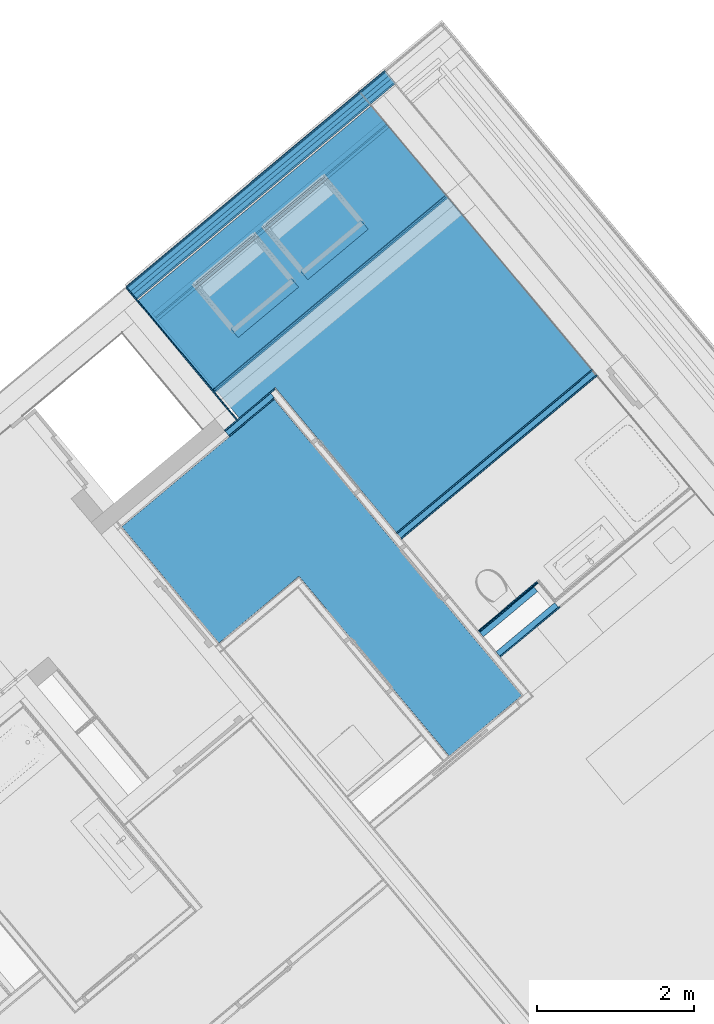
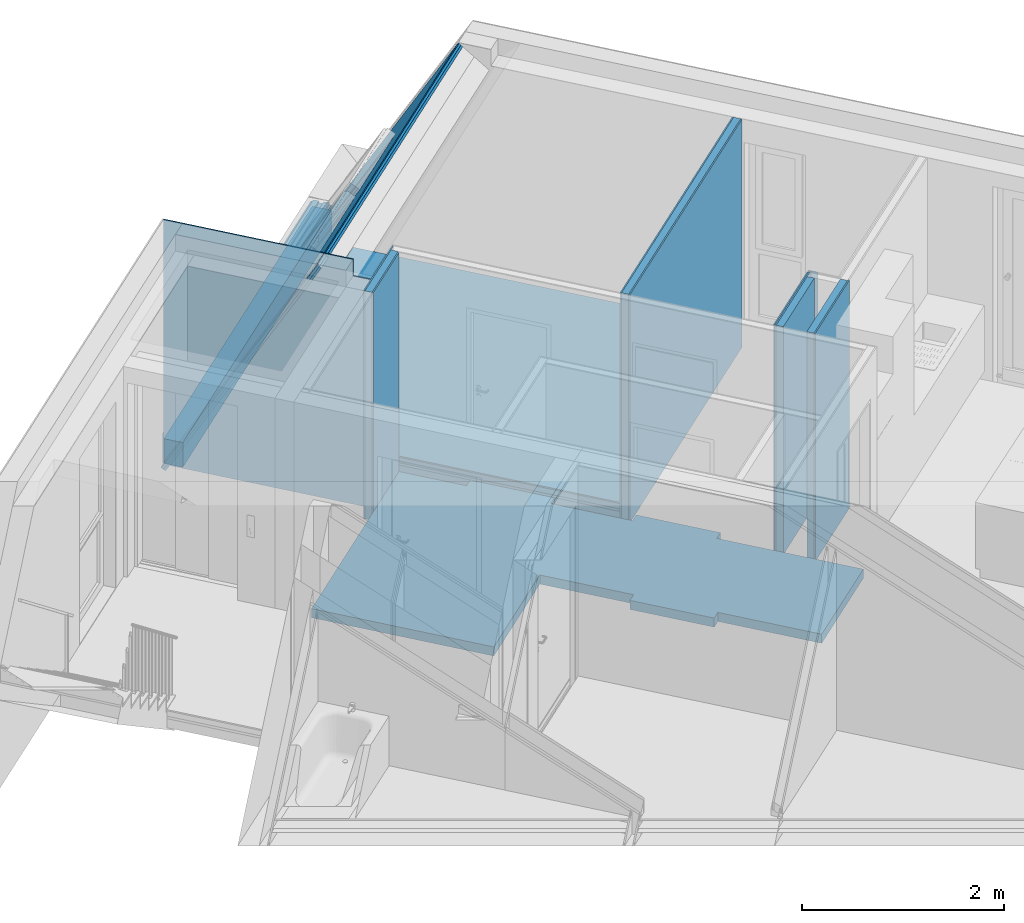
# One storey, part 35 of 58: 25 building element parts, 2 openings, 9 elements without a shape of their own.
"""IFC4 building model written with IfcOpenShell, lengths in metres."""

from ifc_helpers import new_model, entity, si_unit, converted_unit, derived_unit, direction, frame, origin_with_axes, place, context, subcontext, project, spatial, polygons, material, type_object, element, aggregate, save


model = new_model("IFC4")

# Units and contexts
model_context = context("Model", 3, precision=1e-05, world=origin_with_axes(), true_north=direction((0.0, 1.0)))
body_context = subcontext(model_context, "Body", "Model", "MODEL_VIEW")
ifc_project = project(units=[si_unit("LENGTHUNIT", "METRE"), si_unit("AREAUNIT", "SQUARE_METRE"), si_unit("VOLUMEUNIT", "CUBIC_METRE"), converted_unit("PLANEANGLEUNIT", "DEGREE", entity("IfcPlaneAngleMeasure", 0.0174532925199), si_unit("PLANEANGLEUNIT", "RADIAN"), dimensions=[0, 0, 0, 0, 0, 0, 0]), converted_unit("TIMEUNIT", "Year", entity("IfcTimeMeasure", 31556926.0), si_unit("TIMEUNIT", "SECOND"), dimensions=[0, 0, 1, 0, 0, 0, 0]), si_unit("MASSUNIT", "GRAM", prefix="KILO"), si_unit("THERMODYNAMICTEMPERATUREUNIT", "DEGREE_CELSIUS"), si_unit("LUMINOUSINTENSITYUNIT", "LUMEN"), si_unit("ENERGYUNIT", "JOULE", prefix="MEGA"), derived_unit("THERMALCONDUCTANCEUNIT", [(si_unit("POWERUNIT", "WATT"), 1), (si_unit("LENGTHUNIT", "METRE"), -1), (si_unit("THERMODYNAMICTEMPERATUREUNIT", "KELVIN"), -1)]), derived_unit("SPECIFICHEATCAPACITYUNIT", [(si_unit("ENERGYUNIT", "JOULE"), 1), (si_unit("MASSUNIT", "GRAM", prefix="KILO"), -1), (si_unit("THERMODYNAMICTEMPERATUREUNIT", "KELVIN"), -1)]), derived_unit("MASSDENSITYUNIT", [(si_unit("MASSUNIT", "GRAM", prefix="KILO"), 1), (si_unit("VOLUMEUNIT", "CUBIC_METRE"), -1)])], contexts=[model_context])

# Site, building, storey
site_placement = place(None, frame((-0.00153261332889, -0.00661245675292, 0.0), z_axis=(0.0, 0.0, 1.0), x_axis=(1.0, 0.0, 0.0)))
site = spatial("IfcSite", under=ifc_project, at=site_placement, Name="Site", CompositionType="ELEMENT")
building_placement = place(site_placement, origin_with_axes())
building = spatial("IfcBuilding", under=site, at=building_placement, Name="Building", CompositionType="ELEMENT")
storey_placement = place(building_placement, frame((0.0, 0.0, 5.7), z_axis=(0.0, 0.0, 1.0), x_axis=(1.0, 0.0, 0.0)))
storey = spatial("IfcBuildingStorey", under=building, at=storey_placement, Name="DG1", CompositionType="ELEMENT", Elevation=5.7)

# Roof, openings, building element parts
roof_type = type_object("IfcRoofType", Name="Schrägdach Dachaufbau 210", PredefinedType="NOTDEFINED")
roof_placement = place(storey_placement, frame((1.45179508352, 27.7541030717, -0.775000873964), z_axis=(0.0, 0.0, 1.0), x_axis=(0.767365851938, 0.641209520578, 0.0)))
roof = element("IfcRoof", 1, at=roof_placement, inside=storey, type_object=roof_type, Name="Dach-001", PredefinedType="NOTDEFINED")
opening_1_placement = place(roof_placement, frame((1.26831312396, -0.816378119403, 1.05900750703), z_axis=(0.0, 0.0, 1.0), x_axis=(1.0, 0.0, 0.0)))
element("IfcOpeningElement", 2, at=opening_1_placement, cuts=roof, Name="DFenst-002", context=body_context, identifier="Reference", shape_type="Tessellation", body=[
    polygons([(-0.5, -0.8, 2.16064152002), (0.5, -0.8, 2.16064152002), (0.5, -0.799133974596, 2.16114152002), (-0.5, -0.799133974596, 2.16114152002), (-0.5, -1.0436418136, 2.16064152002), (0.5, -1.0436418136, 2.16064152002), (0.5, 0.0, 0.775000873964), (0.5, 0.000866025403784, 0.775500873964), (-0.5, 0.000866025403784, 0.775500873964), (-0.5, 0.0, 0.775000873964), (-0.5, 0.0, 0.353000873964), (0.5, 0.0, 0.353000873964)], [[[1, 2, 3, 4]], [[2, 1, 5, 6]], [[2, 7, 8, 3]], [[3, 8, 9, 4]], [[10, 1, 4, 9]], [[1, 10, 11, 5]], [[5, 11, 12, 6]], [[7, 2, 6, 12]], [[7, 10, 9, 8]], [[10, 7, 12, 11]]], closed=True),
])
opening_2_placement = place(roof_placement, frame((2.41829637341, -0.818619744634, 1.06289011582), z_axis=(0.0, 0.0, 1.0), x_axis=(1.0, 0.0, 0.0)))
element("IfcOpeningElement", 3, at=opening_2_placement, cuts=roof, Name="DFenst-002", context=body_context, identifier="Reference", shape_type="Tessellation", body=[
    polygons([(-0.5, -0.8, 2.16064152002), (0.5, -0.8, 2.16064152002), (0.5, -0.799133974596, 2.16114152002), (-0.5, -0.799133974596, 2.16114152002), (-0.5, -1.0436418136, 2.16064152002), (0.5, -1.0436418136, 2.16064152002), (0.5, 0.0, 0.775000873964), (0.5, 0.000866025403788, 0.775500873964), (-0.5, 0.000866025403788, 0.775500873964), (-0.5, 0.0, 0.775000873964), (-0.5, 0.0, 0.353000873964), (0.5, 0.0, 0.353000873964)], [[[1, 2, 3, 4]], [[2, 1, 5, 6]], [[2, 7, 8, 3]], [[3, 8, 9, 4]], [[10, 1, 4, 9]], [[1, 10, 11, 5]], [[5, 11, 12, 6]], [[7, 2, 6, 12]], [[7, 10, 9, 8]], [[10, 7, 12, 11]]], closed=True),
])
ifc_material_1 = material(Name="Stehfalz")
building_element_part_1_placement = place(roof_placement, origin_with_axes())
building_element_part_1 = element("IfcBuildingElementPart", 4, at=building_element_part_1_placement, material=ifc_material_1, Name="Stehfalz", PredefinedType="NOTDEFINED", context=body_context, shape_type="Tessellation", body=[
    polygons([(0.0935620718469, -0.439195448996, 1.16070883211), (0.0935620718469, -0.440292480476, 1.16260894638), (3.95379712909, -0.440292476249, 1.16260893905), (3.95855441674, -1.92194630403, 3.728908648), (-0.121577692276, -1.92249479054, 3.72985865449), (-0.121798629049, -0.273065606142, 0.872963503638), (0.0935620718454, -0.273065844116, 0.87296391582), (0.0935620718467, -0.419959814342, 1.12739173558), (3.95373184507, -0.41995981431, 1.12739173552), (3.95379360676, -0.439195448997, 1.16070883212), (0.768313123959, -0.816378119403, 1.81400838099), (0.768313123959, -1.62792512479, 3.21964902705), (1.76831312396, -1.62792512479, 3.21964902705), (1.76831312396, -0.816378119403, 1.81400838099), (2.91829637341, -0.818619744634, 1.81789098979), (1.91829637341, -0.818619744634, 1.81789098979), (1.91829637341, -1.63016675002, 3.22353163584), (2.91829637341, -1.63016675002, 3.22353163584), (0.0935620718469, -0.439716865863, 1.181130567), (0.0935620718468, -0.427437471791, 1.1603434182), (0.0935620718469, -0.439703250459, 1.18158837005), (3.95382241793, -0.43971686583, 1.181130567), (3.9538230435, -0.439703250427, 1.18158836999), (3.95855653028, -1.91394431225, 3.73504879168), (-0.121577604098, -1.91449279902, 3.73599879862), (-0.121798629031, -0.264405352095, 0.877963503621), (0.0935620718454, -0.264405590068, 0.877963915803), (0.0935620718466, -0.412805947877, 1.13500087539), (0.0935620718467, -0.419959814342, 1.13500087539), (3.95374242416, -0.41995981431, 1.13500087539), (3.95378366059, -0.427437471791, 1.1603434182), (3.95373668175, -0.412805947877, 1.13500087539), (0.768313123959, -0.816378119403, 1.83400838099), (0.768313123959, -1.6163781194, 3.21964902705), (1.76831312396, -1.6163781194, 3.21964902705), (1.76831312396, -0.816378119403, 1.83400838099), (2.91829637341, -0.818619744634, 1.83789098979), (1.91829637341, -0.818619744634, 1.83789098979), (1.91829637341, -1.61861974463, 3.22353163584), (2.91829637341, -1.61861974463, 3.22353163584)], [[[1, 2, 3, 4, 5, 6, 7, 8, 9, 10], [11, 12, 13, 14], [15, 16, 17, 18]], [[19, 2, 1, 20, 21]], [[22, 3, 2, 19]], [[3, 22, 23, 24, 4]], [[5, 4, 24, 25]], [[6, 5, 25, 26]], [[27, 7, 6, 26]], [[28, 29, 8, 7, 27]], [[30, 9, 8, 29]], [[31, 10, 9, 30, 32]], [[1, 10, 31, 20]], [[12, 11, 33, 34]], [[13, 12, 34, 35]], [[14, 13, 35, 36]], [[36, 33, 11, 14]], [[15, 37, 38, 16]], [[39, 17, 16, 38]], [[40, 18, 17, 39]], [[37, 15, 18, 40]], [[20, 31, 32, 28, 27, 26, 25, 24, 23, 21], [33, 36, 35, 34], [39, 38, 37, 40]], [[22, 19, 21, 23]], [[32, 30, 29, 28]]], closed=True),
])
ifc_material_2 = material(Name="Bauholz")
building_element_part_2_placement = place(roof_placement, origin_with_axes())
building_element_part_2 = element("IfcBuildingElementPart", 5, at=building_element_part_2_placement, material=ifc_material_2, Name="Bauholz", PredefinedType="NOTDEFINED", context=body_context, shape_type="Tessellation", body=[
    polygons([(3.95379458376, -0.440350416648, 1.16074472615), (3.95379712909, -0.440292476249, 1.16260893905), (3.95855441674, -1.92194630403, 3.728908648), (3.95854913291, -1.94195128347, 3.71355828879), (3.95366232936, -0.41995981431, 1.07739173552), (3.95373184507, -0.41995981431, 1.12739173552), (3.95379360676, -0.439195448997, 1.16070883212), (0.0935620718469, -0.440350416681, 1.16074472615), (0.0935620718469, -0.440292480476, 1.16260894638), (0.0935620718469, -0.439195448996, 1.16070883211), (0.0935620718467, -0.419959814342, 1.12739173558), (0.0935620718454, -0.273065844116, 0.87296391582), (-0.121798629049, -0.273065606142, 0.872963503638), (-0.121577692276, -1.92249479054, 3.72985865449), (0.768313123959, -0.816378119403, 1.81400838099), (1.76831312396, -0.816378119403, 1.81400838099), (1.76831312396, -1.62792512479, 3.21964902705), (0.768313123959, -1.62792512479, 3.21964902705), (1.91829637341, -1.63016675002, 3.22353163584), (1.91829637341, -0.818619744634, 1.81789098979), (2.91829637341, -0.818619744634, 1.81789098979), (2.91829637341, -1.63016675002, 3.22353163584), (-0.121577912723, -1.94249976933, 3.71450829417), (0.0935620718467, -0.419959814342, 1.07739173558), (-0.121798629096, -0.294716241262, 0.860463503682), (0.0935620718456, -0.294716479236, 0.860463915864), (0.768313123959, -0.816378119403, 1.76400838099), (0.768313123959, -1.65679263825, 3.21964902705), (1.76831312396, -1.65679263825, 3.21964902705), (1.76831312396, -0.816378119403, 1.76400838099), (2.91829637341, -0.818619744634, 1.76789098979), (1.91829637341, -0.818619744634, 1.76789098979), (1.91829637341, -1.65903426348, 3.22353163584), (2.91829637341, -1.65903426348, 3.22353163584)], [[[1, 2, 3, 4, 5, 6, 7]], [[2, 1, 8, 9]], [[10, 7, 6, 11, 12, 13, 14, 3, 2, 9], [15, 16, 17, 18], [19, 20, 21, 22]], [[23, 4, 3, 14]], [[24, 5, 4, 23, 25, 26], [27, 28, 29, 30], [31, 32, 33, 34]], [[11, 6, 5, 24]], [[1, 7, 10, 8]], [[10, 9, 8]], [[11, 24, 26, 12]], [[12, 26, 25, 13]], [[25, 23, 14, 13]], [[16, 15, 27, 30]], [[30, 29, 17, 16]], [[29, 28, 18, 17]], [[28, 27, 15, 18]], [[19, 33, 32, 20]], [[31, 21, 20, 32]], [[21, 31, 34, 22]], [[22, 34, 33, 19]]], closed=True),
])
ifc_material_3 = material(Name="Luftschicht horizontal")
building_element_part_3_placement = place(roof_placement, origin_with_axes())
building_element_part_3 = element("IfcBuildingElementPart", 6, at=building_element_part_3_placement, material=ifc_material_3, Name="Luftschicht horizontal", PredefinedType="NOTDEFINED", context=body_context, shape_type="Tessellation", body=[
    polygons([(3.95366232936, -0.41995981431, 1.07739173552), (3.95854913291, -1.94195128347, 3.71355828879), (3.95854384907, -1.96195626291, 3.69820792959), (3.95359281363, -0.419959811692, 1.02739173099), (0.0935620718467, -0.419959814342, 1.07739173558), (0.0935620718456, -0.294716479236, 0.860463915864), (-0.121798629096, -0.294716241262, 0.860463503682), (-0.121577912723, -1.94249976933, 3.71450829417), (0.768313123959, -0.816378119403, 1.76400838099), (1.76831312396, -0.816378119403, 1.76400838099), (1.76831312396, -1.65679263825, 3.21964902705), (0.768313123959, -1.65679263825, 3.21964902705), (1.91829637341, -1.65903426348, 3.22353163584), (1.91829637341, -0.818619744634, 1.76789098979), (2.91829637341, -0.818619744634, 1.76789098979), (2.91829637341, -1.65903426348, 3.22353163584), (-0.121578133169, -1.96250474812, 3.69915793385), (0.0935620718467, -0.419959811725, 1.02739173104), (-0.121798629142, -0.316366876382, 0.847963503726), (0.0935620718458, -0.316367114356, 0.847963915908), (0.768313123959, -0.816378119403, 1.71400838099), (0.768313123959, -1.68566015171, 3.21964902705), (1.76831312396, -1.68566015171, 3.21964902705), (1.76831312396, -0.816378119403, 1.71400838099), (2.91829637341, -0.818619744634, 1.71789098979), (1.91829637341, -0.818619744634, 1.71789098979), (1.91829637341, -1.68790177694, 3.22353163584), (2.91829637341, -1.68790177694, 3.22353163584)], [[[1, 2, 3, 4]], [[5, 6, 7, 8, 2, 1], [9, 10, 11, 12], [13, 14, 15, 16]], [[17, 3, 2, 8]], [[18, 4, 3, 17, 19, 20], [21, 22, 23, 24], [25, 26, 27, 28]], [[5, 1, 4, 18]], [[5, 18, 20, 6]], [[6, 20, 19, 7]], [[19, 17, 8, 7]], [[10, 9, 21, 24]], [[24, 23, 11, 10]], [[23, 22, 12, 11]], [[22, 21, 9, 12]], [[13, 27, 26, 14]], [[25, 15, 14, 26]], [[15, 25, 28, 16]], [[16, 28, 27, 13]]], closed=True),
])
aggregate(roof, [building_element_part_1, building_element_part_2, building_element_part_3])

# Wall, building element parts
wall_type_1 = type_object("IfcWallType", Name="IW LB 01 Leichtbautrennwand einfach 10,5 cm 105", PredefinedType="NOTDEFINED")
wall_1_placement = place(storey_placement, frame((2.9014331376, 25.8298809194, 0.0), z_axis=(0.0, 0.0, 1.0), x_axis=(0.767354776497, 0.641222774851, 0.0)))
wall_1 = element("IfcWall", 7, at=wall_1_placement, inside=storey, type_object=wall_type_1, Name="Wand-012", PredefinedType="NOTDEFINED")
ifc_material_4 = material(Name="Gipskarton")
building_element_part_4_placement = place(wall_1_placement, origin_with_axes())
building_element_part_4 = element("IfcBuildingElementPart", 8, at=building_element_part_4_placement, material=ifc_material_4, Name="Gipskarton", PredefinedType="NOTDEFINED", context=body_context, shape_type="Tessellation", body=[
    polygons([(0.82844383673, 0.0, 2.76), (0.0, 0.0, 2.76), (0.0, -0.015, 2.76), (0.828443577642, -0.015, 2.76), (0.82844383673, 0.0, 0.0), (0.0, 0.0, 0.0), (0.0, -0.015, 0.0), (0.828443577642, -0.015, 0.0)], [[[1, 2, 3, 4]], [[5, 6, 2, 1]], [[3, 2, 6, 7]], [[4, 3, 7, 8]], [[4, 8, 5, 1]], [[8, 7, 6, 5]]], closed=True),
])
ifc_material_5 = material(Name="Mineralwolle weich")
building_element_part_5_placement = place(wall_1_placement, origin_with_axes())
building_element_part_5 = element("IfcBuildingElementPart", 9, at=building_element_part_5_placement, material=ifc_material_5, Name="Mineralwolle weich", PredefinedType="NOTDEFINED", context=body_context, shape_type="Tessellation", body=[
    polygons([(0.753443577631, -0.015, 2.76), (0.0, -0.015, 2.76), (0.0, -0.09, 2.76), (0.753442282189, -0.09, 2.76), (0.753443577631, -0.015, 0.0), (0.0, -0.015, 0.0), (0.0, -0.09, 0.0), (0.753442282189, -0.09, 0.0)], [[[1, 2, 3, 4]], [[5, 6, 2, 1]], [[3, 2, 6, 7]], [[4, 3, 7, 8]], [[4, 8, 5, 1]], [[8, 7, 6, 5]]], closed=True),
])
building_element_part_6_placement = place(wall_1_placement, origin_with_axes())
building_element_part_6 = element("IfcBuildingElementPart", 10, at=building_element_part_6_placement, material=ifc_material_4, Name="Gipskarton", PredefinedType="NOTDEFINED", context=body_context, shape_type="Tessellation", body=[
    polygons([(0.738442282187, -0.09, 2.76), (0.0, -0.09, 2.76), (0.0, -0.105, 2.76), (0.738442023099, -0.105, 2.76), (0.738442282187, -0.09, 0.0), (0.0, -0.09, 0.0), (0.0, -0.105, 0.0), (0.738442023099, -0.105, 0.0)], [[[1, 2, 3, 4]], [[5, 6, 2, 1]], [[3, 2, 6, 7]], [[4, 3, 7, 8]], [[4, 8, 5, 1]], [[8, 7, 6, 5]]], closed=True),
])
aggregate(wall_1, [building_element_part_4, building_element_part_5, building_element_part_6])

# Wall, building element part
wall_type_2 = type_object("IfcWallType", Name="AW EG 420", PredefinedType="NOTDEFINED")
wall_2_placement = place(storey_placement, frame((2.62547037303, 25.8404084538, 0.0), z_axis=(0.0, 0.0, 1.0), x_axis=(-0.641209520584, 0.767365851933, 0.0)))
wall_2 = element("IfcWall", 11, at=wall_2_placement, inside=storey, type_object=wall_type_2, Name="Wand-003", PredefinedType="NOTDEFINED")
ifc_material_6 = material(Name="Zementputz")
building_element_part_7_placement = place(wall_2_placement, origin_with_axes())
building_element_part_7 = element("IfcBuildingElementPart", 12, at=building_element_part_7_placement, material=ifc_material_6, Name="Zementputz", PredefinedType="NOTDEFINED", context=body_context, shape_type="Tessellation", body=[
    polygons([(2.0011158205, -0.42, 2.95999999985), (0.0, -0.42, 2.95999999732), (0.0, -0.42, 2.76), (-0.19999274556, -0.42, 2.76), (-0.19999274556, -0.42, 0.0), (2.0011158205, -0.42, 0.0), (2.0011158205, -0.404999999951, 2.95999999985), (0.0, -0.404999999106, 2.95999999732), (0.0, -0.404999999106, 2.76), (-0.199993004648, -0.404999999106, 2.76), (-0.199993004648, -0.405, 0.0), (2.0011158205, -0.405, 0.0)], [[[1, 2, 3, 4, 5, 6]], [[7, 8, 2, 1]], [[9, 3, 2, 8]], [[9, 10, 4, 3]], [[5, 4, 10, 11]], [[6, 5, 11, 12]], [[1, 6, 12, 7]], [[10, 9, 8, 7, 12, 11]]], closed=True),
])
aggregate(wall_2, [building_element_part_7])

# Wall, building element parts
wall_3_placement = place(storey_placement, frame((5.08746071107, 24.5291530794, 0.0), z_axis=(0.0, 0.0, 1.0), x_axis=(0.767365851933, 0.641209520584, 0.0)))
wall_3 = element("IfcWall", 13, at=wall_3_placement, inside=storey, type_object=wall_type_1, Name="Wand-012", PredefinedType="NOTDEFINED")
building_element_part_8_placement = place(wall_3_placement, origin_with_axes())
building_element_part_8 = element("IfcBuildingElementPart", 14, at=building_element_part_8_placement, material=ifc_material_4, Name="Gipskarton", PredefinedType="NOTDEFINED", context=body_context, shape_type="Tessellation", body=[
    polygons([(3.23167648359, -0.015, 2.76), (3.23167648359, 0.0, 2.76), (0.0, 0.0, 2.76), (0.0, -0.015, 2.76), (3.23167648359, -0.015, 0.0), (3.23167648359, 0.0, 0.0), (0.0, 0.0, 0.0), (0.0, -0.015, 0.0)], [[[1, 2, 3, 4]], [[2, 1, 5, 6]], [[2, 6, 7, 3]], [[8, 4, 3, 7]], [[5, 1, 4, 8]], [[6, 5, 8, 7]]], closed=True),
])
building_element_part_9_placement = place(wall_3_placement, origin_with_axes())
building_element_part_9 = element("IfcBuildingElementPart", 15, at=building_element_part_9_placement, material=ifc_material_5, Name="Mineralwolle weich", PredefinedType="NOTDEFINED", context=body_context, shape_type="Tessellation", body=[
    polygons([(3.23167648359, -0.09, 2.76), (3.23167648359, -0.015, 2.76), (0.0, -0.015, 2.76), (0.0, -0.09, 2.76), (3.23167648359, -0.09, 0.0), (3.23167648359, -0.015, 0.0), (0.0, -0.015, 0.0), (0.0, -0.09, 0.0)], [[[1, 2, 3, 4]], [[2, 1, 5, 6]], [[2, 6, 7, 3]], [[8, 4, 3, 7]], [[5, 1, 4, 8]], [[6, 5, 8, 7]]], closed=True),
])
building_element_part_10_placement = place(wall_3_placement, origin_with_axes())
building_element_part_10 = element("IfcBuildingElementPart", 16, at=building_element_part_10_placement, material=ifc_material_4, Name="Gipskarton", PredefinedType="NOTDEFINED", context=body_context, shape_type="Tessellation", body=[
    polygons([(3.23167648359, -0.105, 2.76), (3.23167648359, -0.09, 2.76), (0.0, -0.09, 2.76), (0.0, -0.105, 2.76), (3.23167648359, -0.105, 0.0), (3.23167648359, -0.09, 0.0), (0.0, -0.09, 0.0), (0.0, -0.105, 0.0)], [[[1, 2, 3, 4]], [[2, 1, 5, 6]], [[2, 6, 7, 3]], [[8, 4, 3, 7]], [[5, 1, 4, 8]], [[6, 5, 8, 7]]], closed=True),
])
aggregate(wall_3, [building_element_part_8, building_element_part_9, building_element_part_10])

wall_type_3 = type_object("IfcWallType", Name="LB 9,0 cm einfache Vorsatzschale  90", PredefinedType="NOTDEFINED")
wall_4_placement = place(storey_placement, frame((6.35108165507, 23.0169179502, 0.0), z_axis=(0.0, 0.0, 1.0), x_axis=(0.767365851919, 0.641209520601, 0.0)))
wall_4 = element("IfcWall", 17, at=wall_4_placement, inside=storey, type_object=wall_type_3, Name="Wand-006", PredefinedType="NOTDEFINED")
building_element_part_11_placement = place(wall_4_placement, origin_with_axes())
building_element_part_11 = element("IfcBuildingElementPart", 18, at=building_element_part_11_placement, material=ifc_material_5, Name="Mineralwolle weich", PredefinedType="NOTDEFINED", context=body_context, shape_type="Tessellation", body=[
    polygons([(0.971380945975, 0.0, 2.76), (0.0, 0.0, 2.76), (0.0, -0.075, 2.76), (0.971201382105, -0.075, 2.76), (0.971380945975, 0.0, 0.0), (0.0, 0.0, 0.0), (0.0, -0.075, 0.0), (0.971201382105, -0.075, 0.0)], [[[1, 2, 3, 4]], [[5, 6, 2, 1]], [[3, 2, 6, 7]], [[4, 3, 7, 8]], [[4, 8, 5, 1]], [[8, 7, 6, 5]]], closed=True),
])
building_element_part_12_placement = place(wall_4_placement, origin_with_axes())
building_element_part_12 = element("IfcBuildingElementPart", 19, at=building_element_part_12_placement, material=ifc_material_4, Name="Gipskarton", PredefinedType="NOTDEFINED", context=body_context, shape_type="Tessellation", body=[
    polygons([(0.986201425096, -0.075, 2.76), (0.0, -0.075, 2.76), (0.0, -0.09, 2.76), (0.986165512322, -0.09, 2.76), (0.986201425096, -0.075, 0.0), (0.0, -0.075, 0.0), (0.0, -0.09, 0.0), (0.986165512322, -0.09, 0.0)], [[[1, 2, 3, 4]], [[5, 6, 2, 1]], [[3, 2, 6, 7]], [[4, 3, 7, 8]], [[4, 8, 5, 1]], [[8, 7, 6, 5]]], closed=True),
])
aggregate(wall_4, [building_element_part_11, building_element_part_12])

wall_type_4 = type_object("IfcWallType", Name="LB 10,5 cm doppelte Vorsatzschale Bad 105", PredefinedType="NOTDEFINED")
wall_5_placement = place(storey_placement, frame((6.19191495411, 23.207400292, 0.0), z_axis=(0.0, 0.0, 1.0), x_axis=(0.767365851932, 0.641209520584, 0.0)))
wall_5 = element("IfcWall", 20, at=wall_5_placement, inside=storey, type_object=wall_type_4, Name="Wand-004", PredefinedType="NOTDEFINED")
building_element_part_13_placement = place(wall_5_placement, origin_with_axes())
building_element_part_13 = element("IfcBuildingElementPart", 21, at=building_element_part_13_placement, material=ifc_material_4, Name="Gipskarton", PredefinedType="NOTDEFINED", context=body_context, shape_type="Tessellation", body=[
    polygons([(1.00222642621, 0.10487431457, 0.0), (1.00222642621, 0.09, 0.0), (1.00219081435, 0.09, 0.0), (1.00222642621, 0.10487431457, 2.76), (1.00222642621, 0.09, 2.76), (1.00219081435, 0.09, 2.76)], [[[1, 2, 3]], [[4, 5, 2, 1]], [[2, 5, 6, 3]], [[1, 3, 6, 4]], [[5, 4, 6]]], closed=True),
    polygons([(0.972190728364, 0.09, 0.0), (0.0, 0.09, 0.0), (0.0, 0.105, 0.0), (0.972226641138, 0.105, 0.0), (0.972190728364, 0.09, 2.76), (0.0, 0.09, 2.76), (0.0, 0.105, 2.76), (0.972226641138, 0.105, 2.76)], [[[1, 2, 3, 4]], [[5, 6, 2, 1]], [[3, 2, 6, 7]], [[4, 3, 7, 8]], [[4, 8, 5, 1]], [[8, 7, 6, 5]]], closed=True),
])
building_element_part_14_placement = place(wall_5_placement, origin_with_axes())
building_element_part_14 = element("IfcBuildingElementPart", 22, at=building_element_part_14_placement, material=ifc_material_4, Name="Gipskarton", PredefinedType="NOTDEFINED", context=body_context, shape_type="Tessellation", body=[
    polygons([(1.00222642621, 0.09, 0.0), (1.00222642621, 0.075, 0.0), (1.00215490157, 0.075, 0.0), (1.00219081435, 0.09, 0.0), (1.00222642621, 0.09, 2.76), (1.00222642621, 0.075, 2.76), (1.00215490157, 0.075, 2.76), (1.00219081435, 0.09, 2.76)], [[[1, 2, 3, 4]], [[1, 5, 6, 2]], [[2, 6, 7, 3]], [[4, 3, 7, 8]], [[5, 1, 4, 8]], [[6, 5, 8, 7]]], closed=True),
    polygons([(0.97215481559, 0.075, 0.0), (0.0, 0.075, 0.0), (0.0, 0.09, 0.0), (0.972190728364, 0.09, 0.0), (0.97215481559, 0.075, 2.76), (0.0, 0.075, 2.76), (0.0, 0.09, 2.76), (0.972190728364, 0.09, 2.76)], [[[1, 2, 3, 4]], [[5, 6, 2, 1]], [[3, 2, 6, 7]], [[4, 3, 7, 8]], [[4, 8, 5, 1]], [[8, 7, 6, 5]]], closed=True),
])
building_element_part_15_placement = place(wall_5_placement, origin_with_axes())
building_element_part_15 = element("IfcBuildingElementPart", 23, at=building_element_part_15_placement, material=ifc_material_5, Name="Mineralwolle weich", PredefinedType="NOTDEFINED", context=body_context, shape_type="Tessellation", body=[
    polygons([(1.00197533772, 0.0, 0.22), (1.00222642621, 0.0, 0.22), (1.00222642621, 0.0, 2.76), (1.0019753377, 0.0, 2.76), (1.00222642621, 0.075, 0.22), (1.00215490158, 0.075, 0.22), (1.00222642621, 0.075, 2.76), (1.00215490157, 0.075, 2.76)], [[[1, 2, 3, 4]], [[5, 2, 1, 6]], [[2, 5, 7, 3]], [[4, 3, 7, 8]], [[6, 1, 4, 8]], [[5, 6, 8, 7]]], closed=True),
    polygons([(0.897154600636, 0.075, 0.0), (0.896975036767, 0.0, 0.0), (0.0, 0.0, 0.0), (0.0, 0.075, 0.0), (0.897154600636, 0.075, 2.76), (0.896975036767, 0.0, 2.76), (0.0, 0.0, 2.76), (0.0, 0.075, 2.76)], [[[1, 2, 3, 4]], [[2, 1, 5, 6]], [[2, 6, 7, 3]], [[8, 4, 3, 7]], [[5, 1, 4, 8]], [[6, 5, 8, 7]]], closed=True),
])
aggregate(wall_5, [building_element_part_13, building_element_part_14, building_element_part_15])

# Covering, building element parts
covering_type_1 = type_object("IfcCoveringType", Name="DE 01 Decke Wohnung/Wohnung Parkett 220", PredefinedType="NOTDEFINED")
covering_1_placement = place(storey_placement, frame((1.94716383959, 27.3536100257, 0.22), z_axis=(0.0, 0.0, 1.0), x_axis=(1.0, 0.0, 0.0)))
covering_1 = element("IfcCovering", 24, at=covering_1_placement, inside=storey, type_object=covering_type_1, Name="Decke-005", PredefinedType="NOTDEFINED")
ifc_material_7 = material(Name="Parkett")
building_element_part_16_placement = place(covering_1_placement, origin_with_axes())
building_element_part_16 = element("IfcBuildingElementPart", 25, at=building_element_part_16_placement, material=ifc_material_7, Name="Parkett", PredefinedType="NOTDEFINED", context=body_context, shape_type="Tessellation", body=[
    polygons([(3.04944038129, 2.3242449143, -0.015), (3.05499341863, 2.31759933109, 0.0), (5.62017504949, -0.752275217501, 0.0), (5.62017504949, -0.752275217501, -0.015), (0.115702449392, -0.138466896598, 0.0), (0.110149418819, -0.131821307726, -0.015), (1.14208254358, -1.36678718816, 0.0), (1.60148856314, -0.982894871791, 0.0), (3.14029687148, -2.82445694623, 0.0), (3.14029687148, -2.82445694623, -0.015), (1.60148856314, -0.982894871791, -0.015), (1.14208254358, -1.36678718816, -0.015)], [[[1, 2, 3, 4]], [[5, 2, 1, 6]], [[2, 5, 7, 8, 9, 3]], [[9, 10, 4, 3]], [[6, 1, 4, 10, 11, 12]], [[5, 6, 12, 7]], [[7, 12, 11, 8]], [[8, 11, 10, 9]]], closed=True),
])
ifc_material_8 = material(Name="Estrich")
building_element_part_17_placement = place(covering_1_placement, origin_with_axes())
building_element_part_17 = element("IfcBuildingElementPart", 26, at=building_element_part_17_placement, material=ifc_material_8, Name="Estrich", PredefinedType="NOTDEFINED", context=body_context, shape_type="Tessellation", body=[
    polygons([(3.02537721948, 2.35304244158, -0.08), (3.04944038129, 2.3242449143, -0.015), (5.62017504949, -0.752275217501, -0.015), (5.62017504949, -0.752275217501, -0.08), (0.110149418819, -0.131821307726, -0.015), (0.0860862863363, -0.103023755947, -0.08), (1.14208254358, -1.36678718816, -0.015), (1.60148856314, -0.982894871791, -0.015), (3.14029687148, -2.82445694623, -0.015), (3.14029687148, -2.82445694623, -0.08), (1.60148856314, -0.982894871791, -0.08), (1.14208254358, -1.36678718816, -0.08)], [[[1, 2, 3, 4]], [[5, 2, 1, 6]], [[2, 5, 7, 8, 9, 3]], [[9, 10, 4, 3]], [[6, 1, 4, 10, 11, 12]], [[5, 6, 12, 7]], [[7, 12, 11, 8]], [[8, 11, 10, 9]]], closed=True),
])
ifc_material_9 = material(Name="Trittschalldämmung")
building_element_part_18_placement = place(covering_1_placement, origin_with_axes())
building_element_part_18 = element("IfcBuildingElementPart", 27, at=building_element_part_18_placement, material=ifc_material_9, Name="Trittschalldämmung", PredefinedType="NOTDEFINED", context=body_context, shape_type="Tessellation", body=[
    polygons([(3.0142711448, 2.36633360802, -0.11), (3.02537721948, 2.35304244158, -0.08), (5.62017504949, -0.752275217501, -0.08), (5.62017504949, -0.752275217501, -0.11), (0.0860862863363, -0.103023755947, -0.08), (0.0749802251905, -0.089732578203, -0.11), (1.14208254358, -1.36678718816, -0.08), (1.60148856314, -0.982894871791, -0.08), (3.14029687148, -2.82445694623, -0.08), (3.14029687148, -2.82445694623, -0.11), (1.60148856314, -0.982894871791, -0.11), (1.14208254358, -1.36678718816, -0.11)], [[[1, 2, 3, 4]], [[5, 2, 1, 6]], [[2, 5, 7, 8, 9, 3]], [[9, 10, 4, 3]], [[6, 1, 4, 10, 11, 12]], [[5, 6, 12, 7]], [[7, 12, 11, 8]], [[8, 11, 10, 9]]], closed=True),
])
ifc_material_10 = material(Name="Schüttung")
building_element_part_19_placement = place(covering_1_placement, origin_with_axes())
building_element_part_19 = element("IfcBuildingElementPart", 28, at=building_element_part_19_placement, material=ifc_material_10, Name="Schüttung", PredefinedType="NOTDEFINED", context=body_context, shape_type="Tessellation", body=[
    polygons([(2.97354887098, 2.41506788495, -0.22), (3.0142711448, 2.36633360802, -0.11), (5.62017504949, -0.752275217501, -0.11), (5.62017504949, -0.752275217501, -0.22), (0.0749802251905, -0.089732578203, -0.11), (0.034258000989, -0.040998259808, -0.22), (1.14208254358, -1.36678718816, -0.11), (1.60148856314, -0.982894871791, -0.11), (3.14029687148, -2.82445694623, -0.11), (3.14029687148, -2.82445694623, -0.22), (1.60148856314, -0.982894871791, -0.22), (1.14208254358, -1.36678718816, -0.22)], [[[1, 2, 3, 4]], [[5, 2, 1, 6]], [[2, 5, 7, 8, 9, 3]], [[3, 9, 10, 4]], [[6, 1, 4, 10, 11, 12]], [[5, 6, 12, 7]], [[8, 7, 12, 11]], [[9, 8, 11, 10]]], closed=True),
])
aggregate(covering_1, [building_element_part_16, building_element_part_17, building_element_part_18, building_element_part_19])

# Covering, building element part
covering_type_2 = type_object("IfcCoveringType", Name="DE 01 Decke Wohnung/Wohnung Fließen 220", PredefinedType="NOTDEFINED")
covering_2_placement = place(storey_placement, frame((3.53540854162, 26.2228144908, 0.22), z_axis=(0.0, 0.0, 1.0), x_axis=(1.0, 0.0, 0.0)))
covering_2 = element("IfcCovering", 29, at=covering_2_placement, inside=storey, type_object=covering_type_2, Name="Decke-001", PredefinedType="NOTDEFINED")
building_element_part_20_placement = place(covering_2_placement, origin_with_axes())
building_element_part_20 = element("IfcBuildingElementPart", 30, at=building_element_part_20_placement, material=ifc_material_10, Name="Schüttung", PredefinedType="NOTDEFINED", context=body_context, shape_type="Tessellation", body=[
    polygons([(-1.93615181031, -1.6179017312, -0.11), (-0.702138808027, -3.09559307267, -0.11), (0.314352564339, -2.24621466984, -0.11), (0.948949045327, -3.00566633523, -0.11), (0.86837563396, -3.07299338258, -0.11), (1.43905209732, -3.75594898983, -0.11), (1.5196247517, -3.68862254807, -0.11), (2.22264850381, -4.52996639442, -0.11), (3.1432594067, -3.76168765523, -0.11), (2.15130708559, -2.57457127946, -0.11), (2.23188049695, -2.50724423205, -0.11), (1.66120403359, -1.8242886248, -0.11), (1.58063062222, -1.89161567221, -0.11), (1.02722238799, -1.22932570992, -0.11), (1.10779579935, -1.16199873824, -0.11), (0.53711933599, -0.479043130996, -0.11), (0.456545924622, -0.546370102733, -0.11), (0.0, 0.0, -0.11), (-0.702138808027, -3.09559307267, -0.22), (-1.93615181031, -1.6179017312, -0.22), (0.314352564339, -2.24621466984, -0.22), (0.948949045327, -3.00566633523, -0.22), (0.86837563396, -3.07299338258, -0.22), (1.43905209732, -3.75594898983, -0.22), (1.5196247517, -3.68862254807, -0.22), (2.22264850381, -4.52996639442, -0.22), (3.1432594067, -3.76168765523, -0.22), (2.15130708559, -2.57457127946, -0.22), (2.23188049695, -2.50724423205, -0.22), (1.66120403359, -1.8242886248, -0.22), (1.58063062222, -1.89161567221, -0.22), (1.02722238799, -1.22932570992, -0.22), (1.10779579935, -1.16199873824, -0.22), (0.53711933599, -0.479043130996, -0.22), (0.456545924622, -0.546370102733, -0.22), (0.0, 0.0, -0.22)], [[[1, 2, 3, 4, 5, 6, 7, 8, 9, 10, 11, 12, 13, 14, 15, 16, 17, 18]], [[19, 2, 1, 20]], [[2, 19, 21, 3]], [[3, 21, 22, 4]], [[4, 22, 23, 5]], [[5, 23, 24, 6]], [[6, 24, 25, 7]], [[7, 25, 26, 8]], [[8, 26, 27, 9]], [[9, 27, 28, 10]], [[10, 28, 29, 11]], [[11, 29, 30, 12]], [[12, 30, 31, 13]], [[13, 31, 32, 14]], [[14, 32, 33, 15]], [[15, 33, 34, 16]], [[16, 34, 35, 17]], [[17, 35, 36, 18]], [[20, 1, 18, 36]], [[19, 20, 36, 35, 34, 33, 32, 31, 30, 29, 28, 27, 26, 25, 24, 23, 22, 21]]], closed=True),
])
aggregate(covering_2, [building_element_part_20])

# Wall, building element parts
wall_type_5 = type_object("IfcWallType", Name="Bauteil - Attika Abschluss wand 264 x 407", PredefinedType="NOTDEFINED")
wall_6_placement = place(storey_placement, frame((5.07730260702, 30.2362960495, -0.2), z_axis=(0.0, 0.0, 1.0), x_axis=(-0.767365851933, -0.641209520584, 0.0)))
wall_6 = element("IfcWall", 31, at=wall_6_placement, inside=storey, type_object=wall_type_5, Name="Wand-002", PredefinedType="NOTDEFINED")
ifc_material_11 = material(Name="Vollholz")
building_element_part_21_placement = place(wall_6_placement, origin_with_axes())
building_element_part_21 = element("IfcBuildingElementPart", 32, at=building_element_part_21_placement, material=ifc_material_11, Name="Vollholz", PredefinedType="NOTDEFINED", context=body_context, shape_type="Tessellation", body=[
    polygons([(4.2801343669, -0.0789260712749, 0.582657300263), (4.2801343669, -0.019237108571, 0.584512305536), (0.0, -0.019237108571, 0.584512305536), (0.0, -0.0789260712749, 0.582657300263), (4.2801343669, -0.07914848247, 0.560000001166), (4.2801343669, -0.01914848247, 0.560000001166), (0.0, -0.01914848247, 0.560000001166), (0.0, -0.07914848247, 0.560000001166)], [[[1, 2, 3, 4]], [[1, 5, 6, 2]], [[2, 6, 7, 3]], [[4, 3, 7, 8]], [[5, 1, 4, 8]], [[6, 5, 8, 7]]], closed=True),
])
ifc_material_12 = material(Name="EPS 1")
building_element_part_22_placement = place(wall_6_placement, origin_with_axes())
building_element_part_22 = element("IfcBuildingElementPart", 33, at=building_element_part_22_placement, material=ifc_material_12, Name="EPS 1", PredefinedType="NOTDEFINED", context=body_context, shape_type="Tessellation", body=[
    polygons([(4.2801343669, -2.39911202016e-10, 0.499999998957), (4.2801343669, -2.39911202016e-10, 0.2), (0.0, -2.39911202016e-10, 0.2), (0.0, -2.39911202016e-10, 0.499999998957), (4.2801343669, -0.19999996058, 0.499999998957), (4.2801343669, -0.19999996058, 0.2), (0.0, -0.19999996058, 0.2), (0.0, -0.19999996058, 0.499999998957)], [[[1, 2, 3, 4]], [[1, 5, 6, 2]], [[2, 6, 7, 3]], [[4, 3, 7, 8]], [[5, 1, 4, 8]], [[6, 5, 8, 7]]], closed=True),
])
ifc_material_13 = material(Name="Brettschichtholz")
building_element_part_23_placement = place(wall_6_placement, origin_with_axes())
building_element_part_23 = element("IfcBuildingElementPart", 34, at=building_element_part_23_placement, material=ifc_material_13, Name="Brettschichtholz", PredefinedType="NOTDEFINED", context=body_context, shape_type="Tessellation", body=[
    polygons([(4.2801343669, -0.13012497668, 0.560000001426), (4.2801343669, -0.0791484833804, 0.560000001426), (0.0, -0.0791484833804, 0.560000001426), (0.0, -0.13012497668, 0.560000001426), (4.2801343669, -0.190124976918, 0.560000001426), (4.2801343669, -0.214999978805, 0.560000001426), (4.2801343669, -0.214999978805, 0.500000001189), (4.2801343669, 2.3777211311e-09, 0.500000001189), (4.2801343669, 2.3777211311e-09, 0.560000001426), (4.2801343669, -0.0191484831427, 0.560000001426), (0.0, -0.0191484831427, 0.560000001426), (0.0, 2.37772468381e-09, 0.560000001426), (0.0, 2.37772468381e-09, 0.500000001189), (0.0, -0.214999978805, 0.500000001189), (0.0, -0.214999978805, 0.560000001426), (0.0, -0.190124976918, 0.560000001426)], [[[1, 2, 3, 4]], [[1, 5, 6, 7, 8, 9, 10, 2]], [[2, 10, 11, 3]], [[4, 3, 11, 12, 13, 14, 15, 16]], [[5, 1, 4, 16]], [[6, 5, 16, 15]], [[7, 6, 15, 14]], [[8, 7, 14, 13]], [[9, 8, 13, 12]], [[10, 9, 12, 11]]], closed=True),
])
building_element_part_24_placement = place(wall_6_placement, origin_with_axes())
building_element_part_24 = element("IfcBuildingElementPart", 35, at=building_element_part_24_placement, material=ifc_material_11, Name="Vollholz", PredefinedType="NOTDEFINED", context=body_context, shape_type="Tessellation", body=[
    polygons([(4.2801343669, -0.19002193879, 0.57920467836), (4.2801343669, -0.130124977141, 0.581066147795), (0.0, -0.130124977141, 0.581066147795), (0.0, -0.19002193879, 0.57920467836), (4.2801343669, -0.190124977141, 0.560000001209), (4.2801343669, -0.130124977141, 0.560000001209), (0.0, -0.130124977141, 0.560000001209), (0.0, -0.190124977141, 0.560000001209)], [[[1, 2, 3, 4]], [[1, 5, 6, 2]], [[2, 6, 7, 3]], [[4, 3, 7, 8]], [[5, 1, 4, 8]], [[6, 5, 8, 7]]], closed=True),
])
building_element_part_25_placement = place(wall_6_placement, origin_with_axes())
building_element_part_25 = element("IfcBuildingElementPart", 36, at=building_element_part_25_placement, material=ifc_material_6, Name="Zementputz", PredefinedType="NOTDEFINED", context=body_context, shape_type="Tessellation", body=[
    polygons([(4.2801343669, -0.199999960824, 0.2), (4.2801343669, -0.214999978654, 0.2), (0.0, -0.214999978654, 0.2), (0.0, -0.199999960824, 0.2), (4.2801343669, -0.199999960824, 0.499999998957), (4.2801343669, -0.214999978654, 0.499999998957), (0.0, -0.214999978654, 0.499999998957), (0.0, -0.199999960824, 0.499999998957)], [[[1, 2, 3, 4]], [[1, 5, 6, 2]], [[2, 6, 7, 3]], [[4, 3, 7, 8]], [[5, 1, 4, 8]], [[6, 5, 8, 7]]], closed=True),
])
aggregate(wall_6, [building_element_part_21, building_element_part_22, building_element_part_23, building_element_part_24, building_element_part_25])

save(model, "model.ifc")
